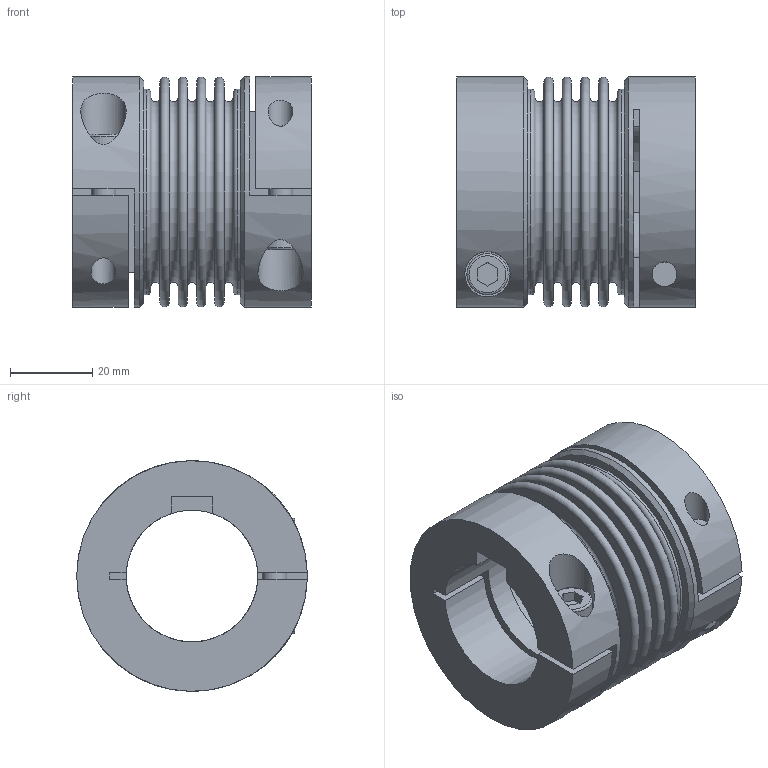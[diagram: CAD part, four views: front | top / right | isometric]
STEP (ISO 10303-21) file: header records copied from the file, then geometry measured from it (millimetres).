
FILE_DESCRIPTION(/* description */ ('STEP AP214'),/* implementation_level */ '2;1');
FILE_NAME(/* name */ 'C:\Diequa Files\DieQua Coupling\BCC\STP\BCC.30.#.#.stp',/* time_stamp */ '2018-11-20T10:56:23-06:00',/* author */ ('DiequaCAD'),/* organization */ (''),/* preprocessor_version */ 'ST-DEVELOPER v17.2',/* originating_system */ 'Autodesk Inventor 2019',/* authorisation */ ' ');
FILE_SCHEMA (('AUTOMOTIVE_DESIGN { 1 0 10303 214 3 1 1 }'));
Length unit declared in the file: millimetre
Products named in the file (1): BKC_30_32_PFN_32_PFN_56
Bounding box: 58 x 56 x 56 mm (x, y, z)
Volume: 68322 mm3; surface area: 33081.5 mm2
Topology: 1 solids, 1 shells, 88 faces, 214 edges, 148 vertices
Faces by surface type: plane 56, cylinder 17, torus 13, cone 2
Full cylindrical faces by diameter (mm): 6 x4, 10 x2, 11 x2, 42 x1, 50 x2, 56 x2
Entity records: 2843 total; most frequent: CARTESIAN_POINT 601, DIRECTION 483, ORIENTED_EDGE 428, EDGE_CURVE 214, AXIS2_PLACEMENT_3D 186, VERTEX_POINT 148, EDGE_LOOP 114, LINE 111
